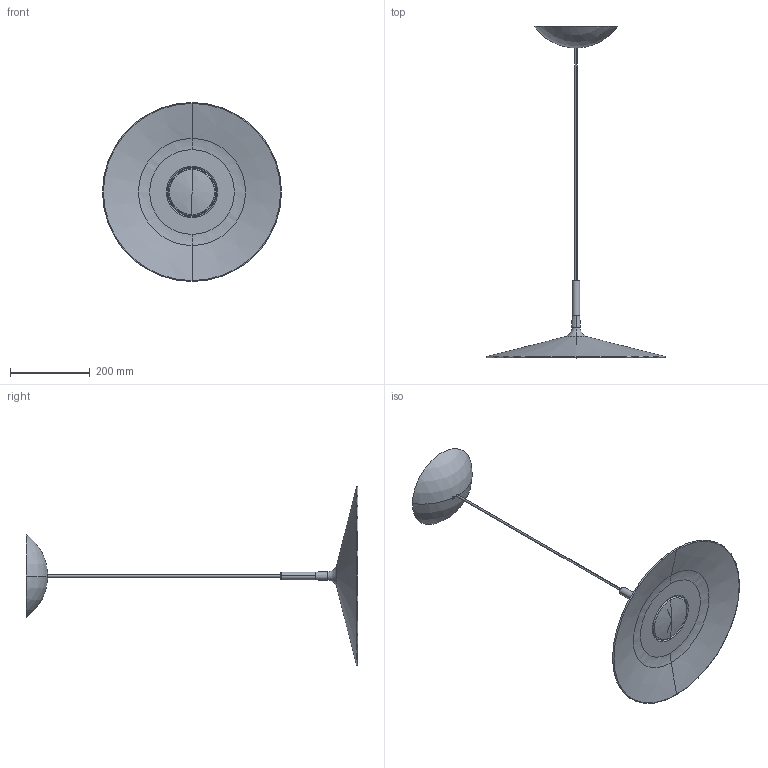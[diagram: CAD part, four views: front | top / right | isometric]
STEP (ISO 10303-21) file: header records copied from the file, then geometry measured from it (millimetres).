
FILE_DESCRIPTION (( 'STEP AP203' ), '1' );
FILE_NAME ('195_LARGE_S_LD_3D.STEP', '2021-04-26T14:52:56', ( '' ), ( '' ), 'SwSTEP 2.0', 'SolidWorks 2021', '' );
FILE_SCHEMA (( 'CONFIG_CONTROL_DESIGN' ));
Length unit declared in the file: millimetre
Products named in the file (1): 195_LARGE_S_LD_3D
Bounding box: 450.07 x 834.35 x 450.07 mm (x, y, z)
Volume: 2324483.4 mm3; surface area: 466328.7 mm2
Topology: 4 solids, 4 shells, 93 faces, 216 edges, 128 vertices
Faces by surface type: cone 28, torus 26, cylinder 20, plane 11, bspline 6, sphere 2
Entity records: 3524 total; most frequent: CARTESIAN_POINT 1311, DIRECTION 492, ORIENTED_EDGE 424, AXIS2_PLACEMENT_3D 222, EDGE_CURVE 212, CIRCLE 134, VERTEX_POINT 128, EDGE_LOOP 104
